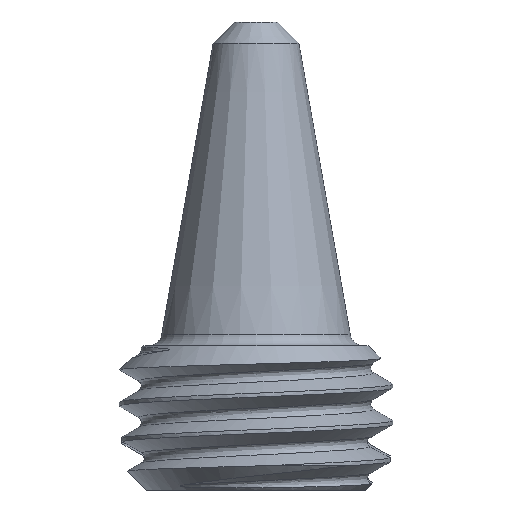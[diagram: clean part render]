
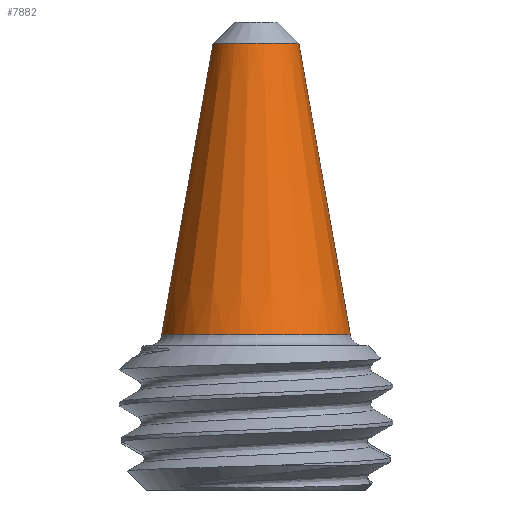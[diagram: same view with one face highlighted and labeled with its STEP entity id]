
A CAD part, front view. The second image highlights one B-rep face of the part: STEP entity #7882.
In plain terms, the highlighted conical face has half-angle 10 degrees and reference radius 2.739 mm.
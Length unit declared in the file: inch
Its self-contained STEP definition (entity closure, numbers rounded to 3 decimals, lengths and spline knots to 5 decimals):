
#616 = CARTESIAN_POINT ( 'NONE',  ( 0., 0., 0.1774 ) ) ;
#1534 = CARTESIAN_POINT ( 'NONE',  ( 0., 0., 0.51072 ) ) ;
#2122 = DIRECTION ( 'NONE',  ( -0.174, 0., -0.985 ) ) ;
#2593 = AXIS2_PLACEMENT_3D ( 'NONE', #5422, #7155, #16694 ) ;
#2677 = AXIS2_PLACEMENT_3D ( 'NONE', #1534, #15895, #12811 ) ;
#3389 = CARTESIAN_POINT ( 'NONE',  ( -0.04904, 0., 0.51072 ) ) ;
#4032 = VERTEX_POINT ( 'NONE', #3389 ) ;
#4255 = VERTEX_POINT ( 'NONE', #7868 ) ;
#5096 = EDGE_CURVE ( 'NONE', #10470, #4255, #9793, .T. ) ;
#5155 = AXIS2_PLACEMENT_3D ( 'NONE', #616, #16332, #17760 ) ;
#5422 = CARTESIAN_POINT ( 'NONE',  ( 0., 0., 0.1774 ) ) ;
#5558 = VECTOR ( 'NONE', #12423, 39.37008 ) ;
#6078 = EDGE_CURVE ( 'NONE', #13944, #4255, #9255, .T. ) ;
#6293 = ORIENTED_EDGE ( 'NONE', *, *, #6620, .T. ) ;
#6620 = EDGE_CURVE ( 'NONE', #4032, #10470, #11569, .T. ) ;
#7155 = DIRECTION ( 'NONE',  ( 0., 0., 1. ) ) ;
#7203 = VECTOR ( 'NONE', #2122, 39.37008 ) ;
#7762 = CARTESIAN_POINT ( 'NONE',  ( -0.10781, 0., 0.1774 ) ) ;
#7868 = CARTESIAN_POINT ( 'NONE',  ( 0.10781, 0., 0.1774 ) ) ;
#7882 = ADVANCED_FACE ( 'NONE', ( #19493 ), #13978, .T. ) ;
#9255 = LINE ( 'NONE', #10677, #5558 ) ;
#9662 = CARTESIAN_POINT ( 'NONE',  ( 0.04904, 0., 0.51072 ) ) ;
#9793 = CIRCLE ( 'NONE', #2593, 0.10781 ) ;
#10470 = VERTEX_POINT ( 'NONE', #7762 ) ;
#10677 = CARTESIAN_POINT ( 'NONE',  ( 0.10781, 0., 0.1774 ) ) ;
#11265 = EDGE_LOOP ( 'NONE', ( #13800, #17423, #6293, #20247 ) ) ;
#11569 = LINE ( 'NONE', #17812, #7203 ) ;
#12423 = DIRECTION ( 'NONE',  ( 0.174, 0., -0.985 ) ) ;
#12811 = DIRECTION ( 'NONE',  ( 1., 0., 0. ) ) ;
#13800 = ORIENTED_EDGE ( 'NONE', *, *, #6078, .F. ) ;
#13944 = VERTEX_POINT ( 'NONE', #9662 ) ;
#13978 = CONICAL_SURFACE ( 'NONE', #5155, 0.10781, 0.175 ) ;
#15121 = CIRCLE ( 'NONE', #2677, 0.04904 ) ;
#15895 = DIRECTION ( 'NONE',  ( 0., 0., 1. ) ) ;
#16332 = DIRECTION ( 'NONE',  ( 0., 0., -1. ) ) ;
#16694 = DIRECTION ( 'NONE',  ( 1., 0., 0. ) ) ;
#17423 = ORIENTED_EDGE ( 'NONE', *, *, #19189, .F. ) ;
#17760 = DIRECTION ( 'NONE',  ( -1., 0., 0. ) ) ;
#17812 = CARTESIAN_POINT ( 'NONE',  ( -0.10781, 0., 0.1774 ) ) ;
#19189 = EDGE_CURVE ( 'NONE', #4032, #13944, #15121, .T. ) ;
#19493 = FACE_OUTER_BOUND ( 'NONE', #11265, .T. ) ;
#20247 = ORIENTED_EDGE ( 'NONE', *, *, #5096, .T. ) ;
